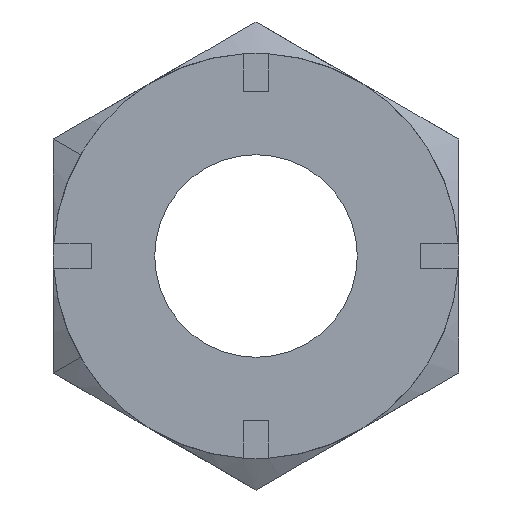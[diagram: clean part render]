
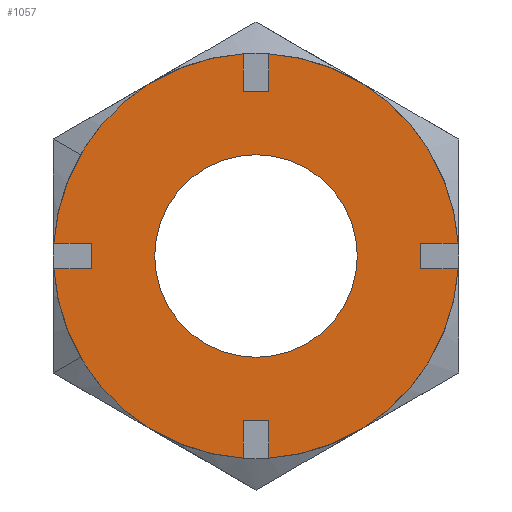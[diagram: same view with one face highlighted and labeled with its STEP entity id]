
A CAD part, left-side view. The second image highlights one B-rep face of the part: STEP entity #1057.
In plain terms, the highlighted planar face has unit normal (-1, 0, 0).
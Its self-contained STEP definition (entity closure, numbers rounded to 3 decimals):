
#130=CARTESIAN_POINT('',(-17.0,0.,4.0));
#131=VERTEX_POINT('',#130);
#140=CARTESIAN_POINT('',(-17.0,4.0,0.0));
#141=VERTEX_POINT('',#140);
#142=CARTESIAN_POINT('',(-17.0,0.0,0.0));
#143=DIRECTION('',(1.0,0.0,0.0));
#144=DIRECTION('',(0.0,1.0,0.0));
#145=AXIS2_PLACEMENT_3D('',#142,#143,#144);
#146=CIRCLE('',#145,4.0);
#147=EDGE_CURVE('',#141,#131,#146,.T.);
#341=CARTESIAN_POINT('',(-17.0,0.,-4.0));
#342=VERTEX_POINT('',#341);
#351=CARTESIAN_POINT('',(-17.0,-4.0,0.));
#352=VERTEX_POINT('',#351);
#353=CARTESIAN_POINT('',(-17.0,0.0,0.0));
#354=DIRECTION('',(1.0,0.0,0.0));
#355=DIRECTION('',(0.0,1.0,0.0));
#356=AXIS2_PLACEMENT_3D('',#353,#354,#355);
#357=CIRCLE('',#356,4.0);
#358=EDGE_CURVE('',#352,#342,#357,.T.);
#392=CARTESIAN_POINT('',(-17.0,0.0,0.0));
#393=DIRECTION('',(1.0,0.0,0.0));
#394=DIRECTION('',(0.0,1.0,0.0));
#395=AXIS2_PLACEMENT_3D('',#392,#393,#394);
#396=CIRCLE('',#395,4.0);
#397=EDGE_CURVE('',#342,#141,#396,.T.);
#407=CARTESIAN_POINT('',(-17.0,7.984,0.5));
#408=VERTEX_POINT('',#407);
#423=CARTESIAN_POINT('',(-17.0,6.5,0.5));
#424=VERTEX_POINT('',#423);
#431=CARTESIAN_POINT('',(-17.0,7.984,0.5));
#432=DIRECTION('',(0.0,-1.0,0.0));
#433=VECTOR('',#432,1.484);
#434=LINE('',#431,#433);
#435=EDGE_CURVE('',#408,#424,#434,.T.);
#445=CARTESIAN_POINT('',(-17.0,7.984,-0.5));
#446=VERTEX_POINT('',#445);
#455=CARTESIAN_POINT('',(-17.0,6.5,-0.5));
#456=VERTEX_POINT('',#455);
#457=CARTESIAN_POINT('',(-17.0,6.5,-0.5));
#458=DIRECTION('',(0.0,1.0,0.0));
#459=VECTOR('',#458,1.484);
#460=LINE('',#457,#459);
#461=EDGE_CURVE('',#456,#446,#460,.T.);
#492=CARTESIAN_POINT('',(-17.0,6.5,0.5));
#493=DIRECTION('',(0.0,0.0,-1.0));
#494=VECTOR('',#493,1.);
#495=LINE('',#492,#494);
#496=EDGE_CURVE('',#424,#456,#495,.T.);
#528=CARTESIAN_POINT('',(-17.0,-0.5,7.984));
#529=VERTEX_POINT('',#528);
#544=CARTESIAN_POINT('',(-17.0,-0.5,6.5));
#545=VERTEX_POINT('',#544);
#552=CARTESIAN_POINT('',(-17.0,-0.5,7.984));
#553=DIRECTION('',(0.0,0.0,-1.0));
#554=VECTOR('',#553,1.484);
#555=LINE('',#552,#554);
#556=EDGE_CURVE('',#529,#545,#555,.T.);
#566=CARTESIAN_POINT('',(-17.0,0.5,7.984));
#567=VERTEX_POINT('',#566);
#576=CARTESIAN_POINT('',(-17.0,0.5,6.5));
#577=VERTEX_POINT('',#576);
#578=CARTESIAN_POINT('',(-17.0,0.5,6.5));
#579=DIRECTION('',(0.0,0.0,1.0));
#580=VECTOR('',#579,1.484);
#581=LINE('',#578,#580);
#582=EDGE_CURVE('',#577,#567,#581,.T.);
#613=CARTESIAN_POINT('',(-17.0,-0.5,6.5));
#614=DIRECTION('',(0.0,1.0,0.0));
#615=VECTOR('',#614,1.);
#616=LINE('',#613,#615);
#617=EDGE_CURVE('',#545,#577,#616,.T.);
#648=CARTESIAN_POINT('',(-17.0,-7.984,-0.5));
#649=VERTEX_POINT('',#648);
#664=CARTESIAN_POINT('',(-17.0,-6.5,-0.5));
#665=VERTEX_POINT('',#664);
#672=CARTESIAN_POINT('',(-17.0,-7.984,-0.5));
#673=DIRECTION('',(0.0,1.0,0.0));
#674=VECTOR('',#673,1.484);
#675=LINE('',#672,#674);
#676=EDGE_CURVE('',#649,#665,#675,.T.);
#686=CARTESIAN_POINT('',(-17.0,-7.984,0.5));
#687=VERTEX_POINT('',#686);
#696=CARTESIAN_POINT('',(-17.0,-6.5,0.5));
#697=VERTEX_POINT('',#696);
#698=CARTESIAN_POINT('',(-17.0,-6.5,0.5));
#699=DIRECTION('',(0.0,-1.0,0.0));
#700=VECTOR('',#699,1.484);
#701=LINE('',#698,#700);
#702=EDGE_CURVE('',#697,#687,#701,.T.);
#733=CARTESIAN_POINT('',(-17.0,-6.5,-0.5));
#734=DIRECTION('',(0.0,0.0,1.0));
#735=VECTOR('',#734,1.);
#736=LINE('',#733,#735);
#737=EDGE_CURVE('',#665,#697,#736,.T.);
#777=CARTESIAN_POINT('',(-17.0,0.5,-7.984));
#778=VERTEX_POINT('',#777);
#793=CARTESIAN_POINT('',(-17.0,0.5,-6.5));
#794=VERTEX_POINT('',#793);
#801=CARTESIAN_POINT('',(-17.0,0.5,-7.984));
#802=DIRECTION('',(0.0,0.0,1.0));
#803=VECTOR('',#802,1.484);
#804=LINE('',#801,#803);
#805=EDGE_CURVE('',#778,#794,#804,.T.);
#815=CARTESIAN_POINT('',(-17.0,-0.5,-7.984));
#816=VERTEX_POINT('',#815);
#825=CARTESIAN_POINT('',(-17.0,-0.5,-6.5));
#826=VERTEX_POINT('',#825);
#827=CARTESIAN_POINT('',(-17.0,-0.5,-6.5));
#828=DIRECTION('',(0.0,0.0,-1.0));
#829=VECTOR('',#828,1.484);
#830=LINE('',#827,#829);
#831=EDGE_CURVE('',#826,#816,#830,.T.);
#862=CARTESIAN_POINT('',(-17.0,0.5,-6.5));
#863=DIRECTION('',(0.0,-1.0,0.0));
#864=VECTOR('',#863,1.);
#865=LINE('',#862,#864);
#866=EDGE_CURVE('',#794,#826,#865,.T.);
#896=CARTESIAN_POINT('',(-17.0,0.0,0.0));
#897=DIRECTION('',(1.0,0.0,0.0));
#898=DIRECTION('',(0.0,1.0,0.0));
#899=AXIS2_PLACEMENT_3D('',#896,#897,#898);
#900=CIRCLE('',#899,8.0);
#901=EDGE_CURVE('',#649,#816,#900,.T.);
#929=CARTESIAN_POINT('',(-17.0,0.0,0.0));
#930=DIRECTION('',(1.0,0.0,0.0));
#931=DIRECTION('',(0.0,1.0,0.0));
#932=AXIS2_PLACEMENT_3D('',#929,#930,#931);
#933=CIRCLE('',#932,8.0);
#934=EDGE_CURVE('',#529,#687,#933,.T.);
#978=CARTESIAN_POINT('',(-17.0,0.0,0.0));
#979=DIRECTION('',(1.0,0.0,0.0));
#980=DIRECTION('',(0.0,1.0,0.0));
#981=AXIS2_PLACEMENT_3D('',#978,#979,#980);
#982=CIRCLE('',#981,8.0);
#983=EDGE_CURVE('',#778,#446,#982,.T.);
#994=CARTESIAN_POINT('',(-17.0,0.0,0.0));
#995=DIRECTION('',(1.0,0.0,0.0));
#996=DIRECTION('',(0.0,1.0,0.0));
#997=AXIS2_PLACEMENT_3D('',#994,#995,#996);
#998=CIRCLE('',#997,8.0);
#999=EDGE_CURVE('',#408,#567,#998,.T.);
#1022=CARTESIAN_POINT('',(-17.0,-8.783,-8.783));
#1023=DIRECTION('',(-1.0,0.0,0.0));
#1024=DIRECTION('',(0.0,0.0,1.0));
#1025=AXIS2_PLACEMENT_3D('',#1022,#1023,#1024);
#1026=PLANE('',#1025);
#1027=ORIENTED_EDGE('',*,*,#435,.T.);
#1028=ORIENTED_EDGE('',*,*,#496,.T.);
#1029=ORIENTED_EDGE('',*,*,#461,.T.);
#1030=ORIENTED_EDGE('',*,*,#983,.F.);
#1031=ORIENTED_EDGE('',*,*,#805,.T.);
#1032=ORIENTED_EDGE('',*,*,#866,.T.);
#1033=ORIENTED_EDGE('',*,*,#831,.T.);
#1034=ORIENTED_EDGE('',*,*,#901,.F.);
#1035=ORIENTED_EDGE('',*,*,#676,.T.);
#1036=ORIENTED_EDGE('',*,*,#737,.T.);
#1037=ORIENTED_EDGE('',*,*,#702,.T.);
#1038=ORIENTED_EDGE('',*,*,#934,.F.);
#1039=ORIENTED_EDGE('',*,*,#556,.T.);
#1040=ORIENTED_EDGE('',*,*,#617,.T.);
#1041=ORIENTED_EDGE('',*,*,#582,.T.);
#1042=ORIENTED_EDGE('',*,*,#999,.F.);
#1043=EDGE_LOOP('',(#1027,#1028,#1029,#1030,#1031,#1032,#1033,#1034,#1035,#1036,#1037,#1038,#1039,#1040,#1041,#1042));
#1044=FACE_OUTER_BOUND('',#1043,.T.);
#1045=ORIENTED_EDGE('',*,*,#147,.T.);
#1046=CARTESIAN_POINT('',(-17.0,0.0,0.0));
#1047=DIRECTION('',(1.0,0.0,0.0));
#1048=DIRECTION('',(0.0,1.0,0.0));
#1049=AXIS2_PLACEMENT_3D('',#1046,#1047,#1048);
#1050=CIRCLE('',#1049,4.0);
#1051=EDGE_CURVE('',#131,#352,#1050,.T.);
#1052=ORIENTED_EDGE('',*,*,#1051,.T.);
#1053=ORIENTED_EDGE('',*,*,#358,.T.);
#1054=ORIENTED_EDGE('',*,*,#397,.T.);
#1055=EDGE_LOOP('',(#1045,#1052,#1053,#1054));
#1056=FACE_BOUND('',#1055,.T.);
#1057=ADVANCED_FACE('',(#1044,#1056),#1026,.T.);
